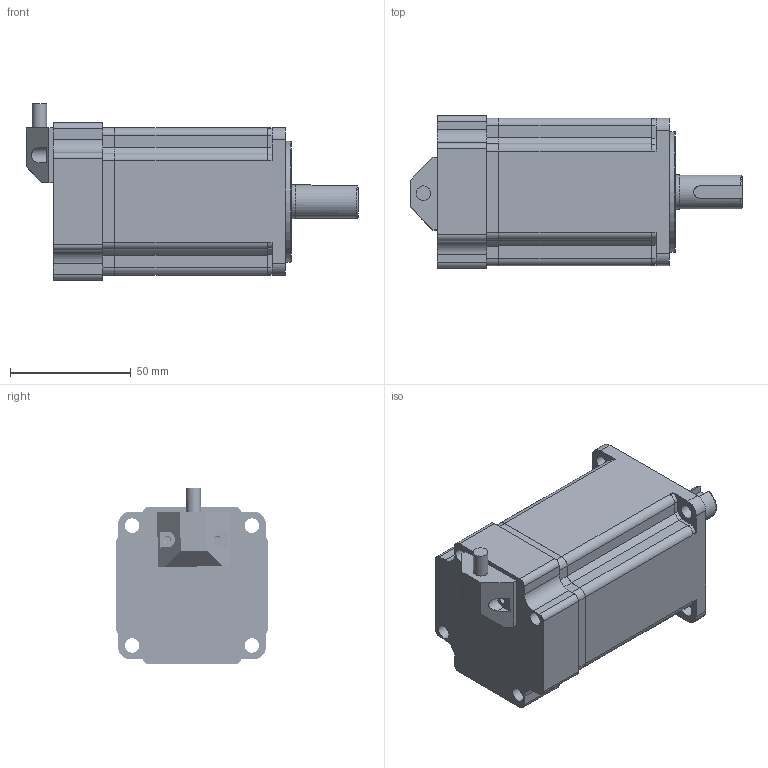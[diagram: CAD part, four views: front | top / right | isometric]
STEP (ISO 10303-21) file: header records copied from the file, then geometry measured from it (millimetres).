
FILE_DESCRIPTION(/* description */ (''),/* implementation_level */ '2;1');
FILE_NAME(/* name */ 'BD-YX2548.stp',/* time_stamp */ '2022-12-10T12:12:34+08:00',/* author */ (''),/* organization */ (''),/* preprocessor_version */ 'ST-DEVELOPER v16',/* originating_system */ 'SIEMENS PLM Software NX 10.0',/* authorisation */ '');
FILE_SCHEMA (('CONFIG_CONTROL_DESIGN'));
Products named in the file (1): BD-61-48
Bounding box: 137.25 x 63 x 72.88 mm (x, y, z)
Volume: 140096.1 mm3; surface area: 81275 mm2
Topology: 12 solids, 13 shells, 506 faces, 1415 edges, 979 vertices
Faces by surface type: plane 234, cylinder 188, bspline 41, cone 38, torus 5
Full cylindrical faces by diameter (mm): 1.5 x4, 2.2 x4, 2.5 x12, 3 x2, 3.2 x4, 3.3 x5, 5 x1, 6 x13, 8 x2, 9.7 x1, 10 x1, 10.401 x1, 12.487 x1, 14 x1, 14.1 x2, 14.4 x1, 15 x1, 16 x1, 16.1 x2, 17.214 x1, 18 x1, 20 x3, 22 x2, 23.8 x1, 24.4 x1, 26 x1, 28 x2, 48 x1, 50 x1, 54.8 x1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
Entity records: 78262 total; most frequent: CARTESIAN_POINT 66794, DIRECTION 2228, ORIENTED_EDGE 2226, EDGE_CURVE 1113, AXIS2_PLACEMENT_3D 845, VERTEX_POINT 804, EDGE_LOOP 734, LINE 538
